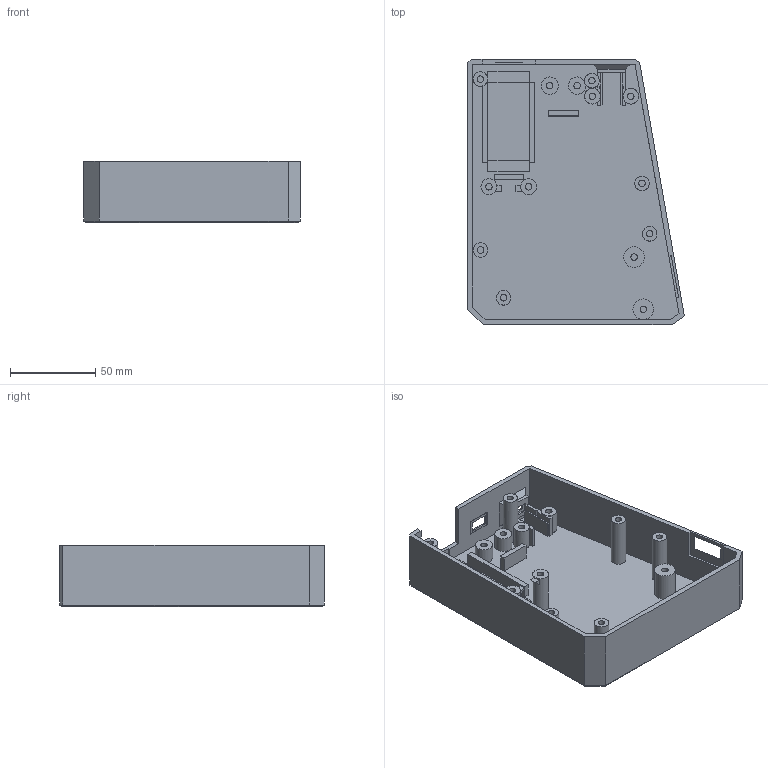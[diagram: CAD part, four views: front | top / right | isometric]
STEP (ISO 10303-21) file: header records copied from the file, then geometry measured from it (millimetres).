
FILE_DESCRIPTION(('Open CASCADE Model'),'2;1');
FILE_NAME('Open CASCADE Shape Model','2026-11-22T17:57:21',('Author'),( 'Open CASCADE'),'Open CASCADE STEP processor 7.9','Open CASCADE 7.9' ,'Unknown');
FILE_SCHEMA(('AUTOMOTIVE_DESIGN { 1 0 10303 214 1 1 1 1 }'));
Length unit declared in the file: millimetre
Products named in the file (1): Open CASCADE STEP translator 7.9 1
Bounding box: 126.75 x 155.1 x 36.1 mm (x, y, z)
Volume: 124682.2 mm3; surface area: 82047.5 mm2
Topology: 1 solids, 1 shells, 216 faces, 529 edges, 346 vertices
Faces by surface type: plane 146, cylinder 38, bspline 32
Full cylindrical faces by diameter (mm): 3.8 x14, 8.56 x6, 9.1 x2, 9.3 x2, 10.1 x1, 12.1 x2
Entity records: 13667 total; most frequent: CARTESIAN_POINT 3098, DIRECTION 1872, LINE 1229, VECTOR 1229, ORIENTED_EDGE 1058, PCURVE 1058, DEFINITIONAL_REPRESENTATION 1058, EDGE_CURVE 529
